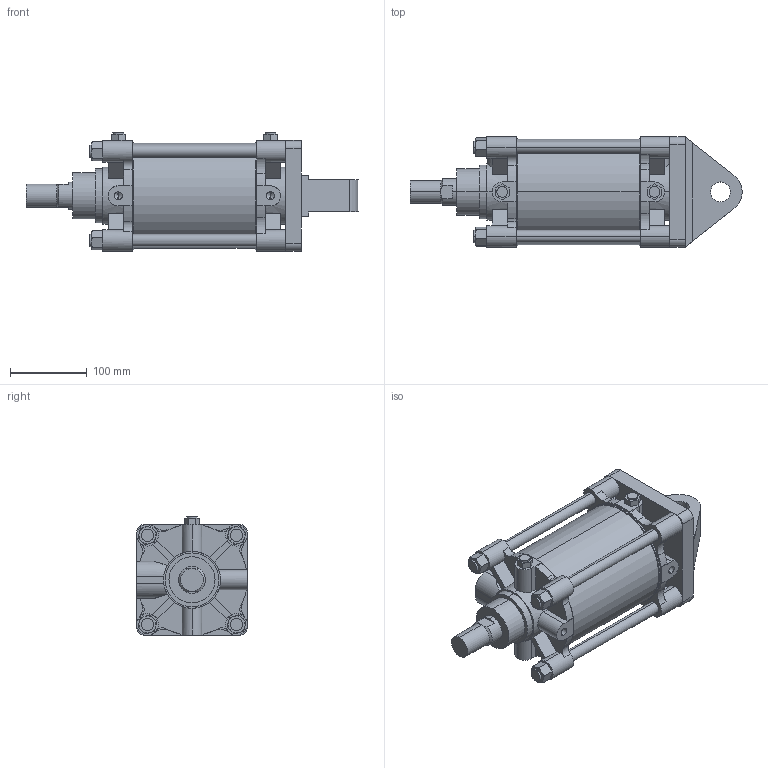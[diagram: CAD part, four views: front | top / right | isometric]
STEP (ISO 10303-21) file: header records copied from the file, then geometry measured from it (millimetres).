
FILE_DESCRIPTION (( 'STEP AP203' ), '1' );
FILE_NAME ('A##2-125#-100-C.STEP', '2016-03-31T06:51:03', ( '' ), ( '' ), 'SwSTEP 2.0', 'SolidWorks 2014', '' );
FILE_SCHEMA (( 'CONFIG_CONTROL_DESIGN' ));
Length unit declared in the file: millimetre
Products named in the file (7): A125-A; A125-100; A125-B; A125-C; A##2-125#-100-C
Assembly tree (12 placements, depth 2):
  A##2-125#-100-C
    A125-B
    A125-100
    A125-A
    (unnamed)  x4
    (unnamed)  x4
    A125-C
Bounding box: 431.91 x 144 x 154 mm (x, y, z)
Volume: 4315226.1 mm3; surface area: 418370.3 mm2
Topology: 12 solids, 14 shells, 357 faces, 912 edges, 586 vertices
Faces by surface type: plane 168, cylinder 149, torus 24, cone 16
Entity records: 10656 total; most frequent: CARTESIAN_POINT 2133, DIRECTION 1692, ORIENTED_EDGE 1548, EDGE_CURVE 774, AXIS2_PLACEMENT_3D 640, VERTEX_POINT 508, VECTOR 412, LINE 412
